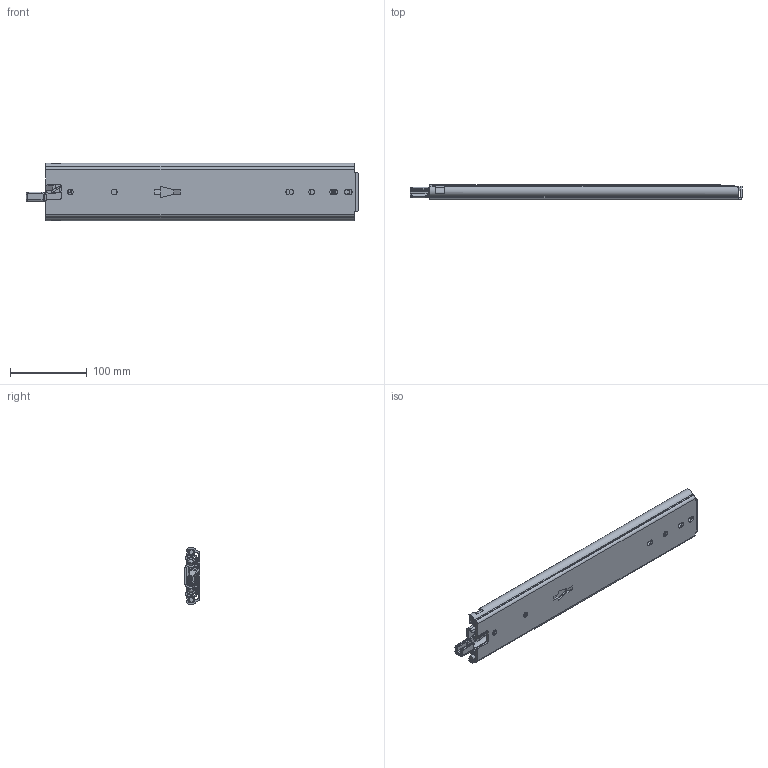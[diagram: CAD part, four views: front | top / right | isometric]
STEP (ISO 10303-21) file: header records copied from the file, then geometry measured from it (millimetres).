
FILE_DESCRIPTION((''),'2;1');
FILE_NAME('DG-76-3S-16YIN_ASM','2023-05-09T',('jishu015'),(''),'PRO/ENGINEER BY PARAMETRIC TECHNOLOGY CORPORATION, 2010280','PRO/ENGINEER BY PARAMETRIC TECHNOLOGY CORPORATION, 2010280','');
FILE_SCHEMA(('CONFIG_CONTROL_DESIGN'));
Length unit declared in the file: millimetre
Products named in the file (30): KP-76-04WAIKE-1816_; 1076-WAIKEZIDANJIAO16_; WAIK16__ASM; 1076XIAOZHUTIAO-22516_; 16_; 1076XIAOZHUTIAO-17516__ASM; KP-76-04ZHONGGUI1816_; 76CHANGGUIZHONGGUIJIAO16_; 3X6WODIN16_; ZHONGGUIBAIKOU16_; PJ-76-30; PJ-76-03; 76-XIAOZHUJIA-11; GANGZHU-XIAO; ZHUJIA-XIAO_ASM; ZHONGGUI6__ASM; KP-76-04NEIGUI1816_; PJ-76-31; DAOGPIAN16_; 1053-3SBANJ01; JIAO-11; 76XINSUOKOU; PJ-338; PJ-356; PJ-357; PJ-336; M4X4; 76-TANHUANG1; NEIGUI16__ASM; DG-76-3S-16YIN_ASM
Assembly tree (47 placements, depth 4):
  DG-76-3S-16YIN_ASM
    WAIK16__ASM
      KP-76-04WAIKE-1816_
      1076-WAIKEZIDANJIAO16_  x2
    1076XIAOZHUTIAO-17516__ASM  x2
      1076XIAOZHUTIAO-22516_
      16_
    ZHONGGUI6__ASM
      KP-76-04ZHONGGUI1816_
      76CHANGGUIZHONGGUIJIAO16_
      3X6WODIN16_
      ZHONGGUIBAIKOU16_
      PJ-76-30
      PJ-76-03
      ZHUJIA-XIAO_ASM
        76-XIAOZHUJIA-11
        GANGZHU-XIAO  x12
    NEIGUI16__ASM
      KP-76-04NEIGUI1816_
      PJ-76-31
      DAOGPIAN16_
      1053-3SBANJ01
      JIAO-11
      76XINSUOKOU
      PJ-338
      PJ-356
      PJ-357
      PJ-336
      M4X4
      76-TANHUANG1
Bounding box: 432.32 x 20.7 x 75.3 mm (x, y, z)
Volume: 264377.3 mm3; surface area: 255156.2 mm2
Topology: 49 solids, 49 shells, 1674 faces, 4906 edges, 3158 vertices
Faces by surface type: plane 759, cylinder 623, bspline 110, torus 76, sphere 55, cone 28, extrusion 23
Entity records: 60674 total; most frequent: CARTESIAN_POINT 19460, ORIENTED_EDGE 9008, DIRECTION 8084, EDGE_CURVE 4504, VERTEX_POINT 2946, AXIS2_PLACEMENT_3D 2850, VECTOR 2384, LINE 2361
